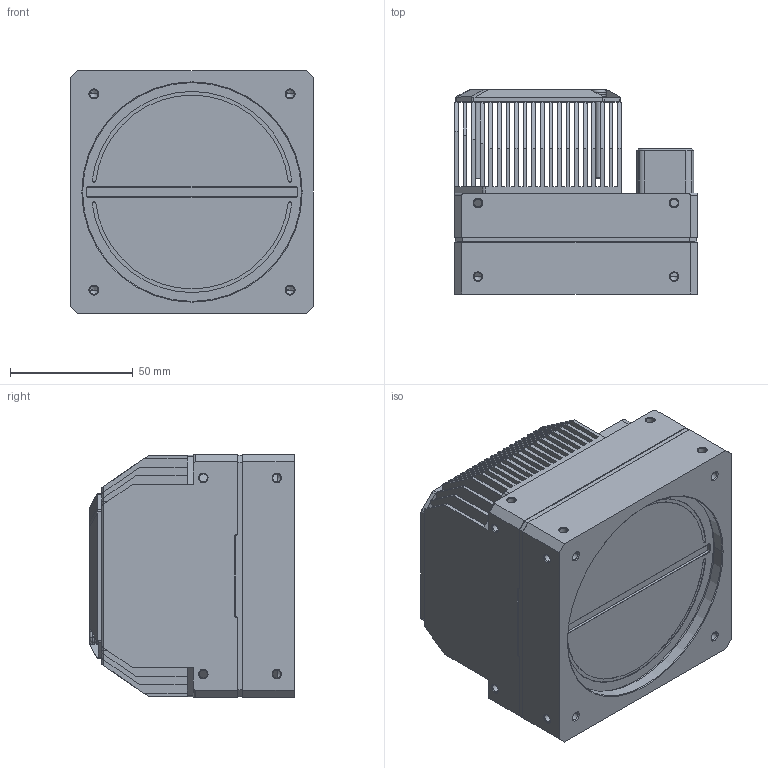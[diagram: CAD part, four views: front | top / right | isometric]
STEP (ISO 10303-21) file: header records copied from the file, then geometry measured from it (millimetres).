
FILE_DESCRIPTION((''),'2;1');
FILE_NAME('ASM0009_ASM','2023-08-31T19:44:57',('gengdawei'),(''),'CREO PARAMETRIC BY PTC INC, 2020044','CREO PARAMETRIC BY PTC INC, 2020044','');
FILE_SCHEMA(('CONFIG_CONTROL_DESIGN'));
Products named in the file (3): PRT0003; DE-19-006864; ASM0009_ASM
Assembly tree (2 placements, depth 2):
  ASM0009_ASM
    PRT0003
    DE-19-006864
Bounding box: 99 x 83.42 x 99 mm (x, y, z)
Volume: 410820.1 mm3; surface area: 138665.9 mm2
Topology: 3 solids, 19 shells, 2145 faces, 5468 edges, 3505 vertices
Faces by surface type: plane 1335, cylinder 578, cone 208, torus 16, bspline 8
Entity records: 66511 total; most frequent: CARTESIAN_POINT 14072, ORIENTED_EDGE 10872, DIRECTION 10772, EDGE_CURVE 5436, VECTOR 3836, LINE 3836, VERTEX_POINT 3505, AXIS2_PLACEMENT_3D 3468
